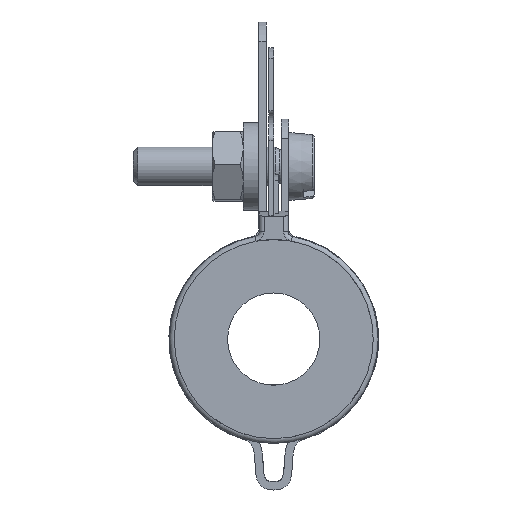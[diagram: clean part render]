
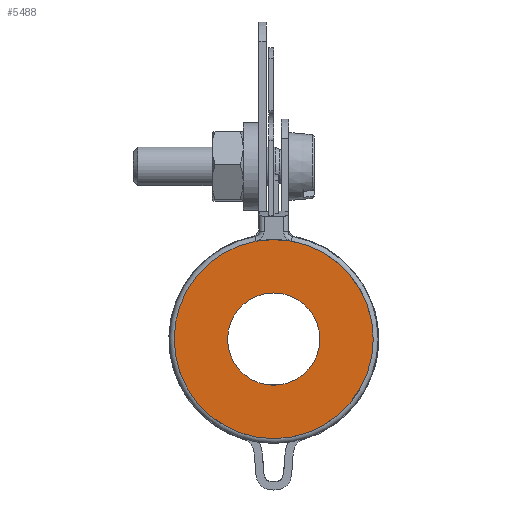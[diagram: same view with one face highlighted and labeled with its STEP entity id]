
A CAD part, front view. The second image highlights one B-rep face of the part: STEP entity #5488.
In plain terms, the highlighted planar face has unit normal (0, -1, 0).
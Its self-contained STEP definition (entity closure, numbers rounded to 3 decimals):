
#1050=FACE_BOUND($,#1721,.T.);
#1338=FACE_OUTER_BOUND($,#1720,.T.);
#1720=EDGE_LOOP($,(#4605));
#1721=EDGE_LOOP($,(#4606));
#2012=CIRCLE($,#6026,10.25);
#2017=CIRCLE($,#6070,4.75);
#2474=VERTEX_POINT($,#9399);
#2485=VERTEX_POINT($,#9464);
#3180=EDGE_CURVE($,#2474,#2474,#2012,.T.);
#3195=EDGE_CURVE($,#2485,#2485,#2017,.T.);
#4605=ORIENTED_EDGE($,*,*,#3180,.T.);
#4606=ORIENTED_EDGE($,*,*,#3195,.T.);
#4875=PLANE($,#6073);
#5488=ADVANCED_FACE($,(#1338,#1050),#4875,.T.);
#6026=AXIS2_PLACEMENT_3D($,#9400,#7510,#7511);
#6070=AXIS2_PLACEMENT_3D($,#9465,#7608,#7609);
#6073=AXIS2_PLACEMENT_3D($,#9468,#7614,#7615);
#7510=DIRECTION('center_axis',(0.,-1.,0.));
#7511=DIRECTION('ref_axis',(-1.,0.,0.));
#7608=DIRECTION('center_axis',(0.,1.,0.));
#7609=DIRECTION('ref_axis',(1.,0.,0.));
#7614=DIRECTION('center_axis',(0.,-1.,0.));
#7615=DIRECTION('ref_axis',(0.,0.,-1.));
#9399=CARTESIAN_POINT('',(10.25,0.,0.));
#9400=CARTESIAN_POINT('Origin',(0.,0.,0.));
#9464=CARTESIAN_POINT('',(-4.75,0.,0.));
#9465=CARTESIAN_POINT('Origin',(0.,0.,0.));
#9468=CARTESIAN_POINT('Origin',(0.,0.,0.));
